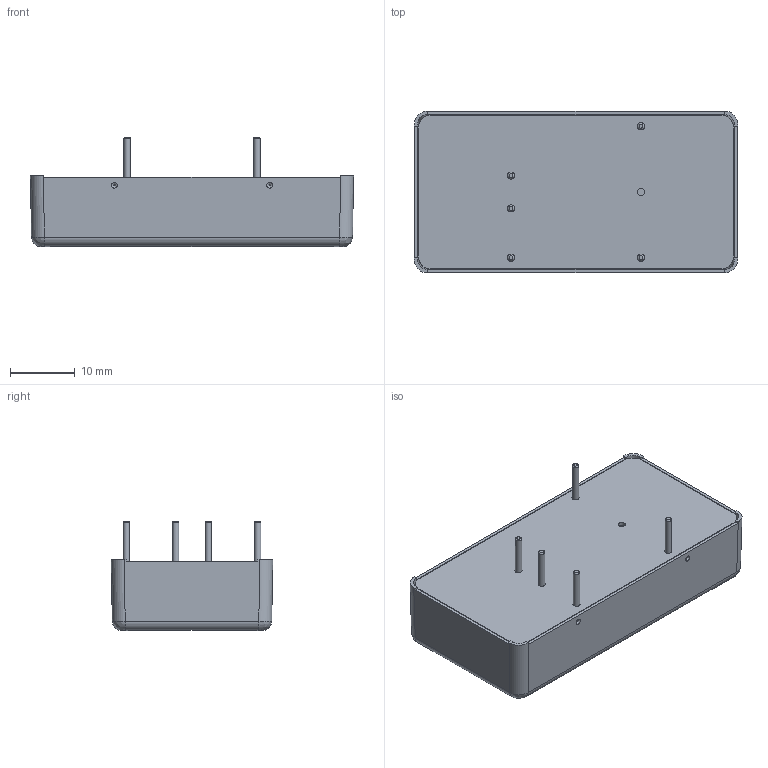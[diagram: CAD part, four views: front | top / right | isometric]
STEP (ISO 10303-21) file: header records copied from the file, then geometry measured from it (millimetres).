
FILE_DESCRIPTION(/* description */ (''),/* implementation_level */ '2;1');
FILE_NAME(/* name */ 'D:\Inventor\3D FILE\ZB15.stp',/* time_stamp */ '2020-03-13T11:35:48+08:00',/* author */ ('peter'),/* organization */ (''),/* preprocessor_version */ 'ST-DEVELOPER v15.2',/* originating_system */ 'Autodesk Inventor 2014',/* authorisation */ '');
FILE_SCHEMA (('AUTOMOTIVE_DESIGN { 1 0 10303 214 3 1 1 }'));
Length unit declared in the file: millimetre
Products named in the file (4): ST TOP CASE -- BLACK; BOT CASE; PIN -- 1_12 mm; ASSEMBLY
Bounding box: 50 x 25 x 16.9 mm (x, y, z)
Volume: 744.4 mm3; surface area: 7954.8 mm2
Topology: 6 solids, 7 shells, 169 faces, 407 edges, 260 vertices
Faces by surface type: plane 66, cylinder 51, torus 24, bspline 12, sphere 12, cone 4
Full cylindrical faces by diameter (mm): 1 x10, 1.1 x6, 1.2 x4, 1.7 x5, 5 x2
Entity records: 3694 total; most frequent: CARTESIAN_POINT 900, DIRECTION 584, ORIENTED_EDGE 500, EDGE_CURVE 250, AXIS2_PLACEMENT_3D 230, VERTEX_POINT 178, EDGE_LOOP 168, LINE 124
